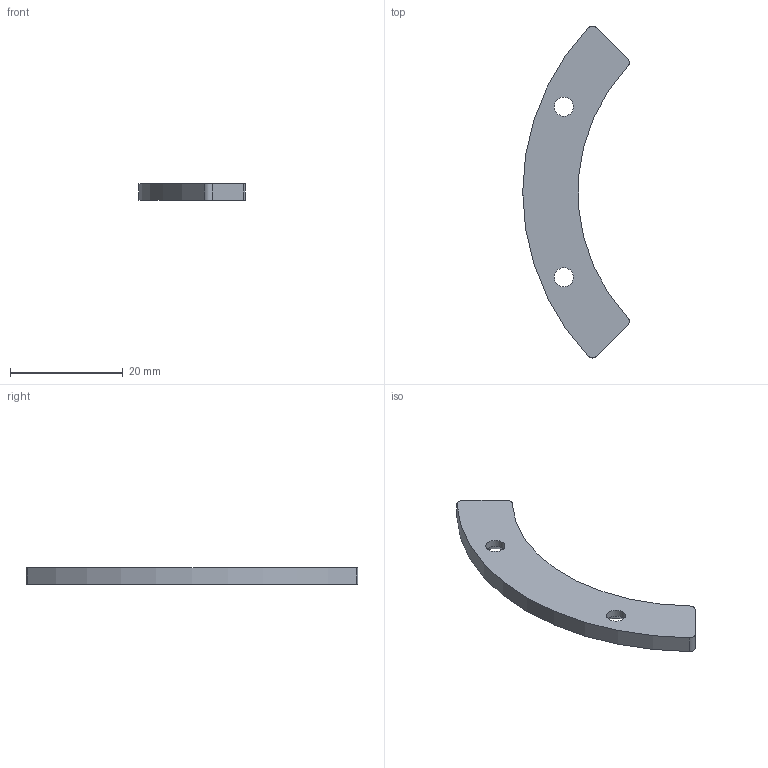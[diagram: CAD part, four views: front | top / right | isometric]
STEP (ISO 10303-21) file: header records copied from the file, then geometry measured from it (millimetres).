
FILE_DESCRIPTION(/* description */ ('Alibre Inc.'),/* implementation_level */ '2;1');
FILE_NAME(/* name */ 'export-25D22975-97D2-419B-AA0D-DFE1FB80EE9A',/* time_stamp */ '2026-01-22T13:47:37+00:00',/* author */ (''),/* organization */ (''),/* preprocessor_version */ 'ST-DEVELOPER v17',/* originating_system */ 'Alibre',/* authorisation */ '');
FILE_SCHEMA (('CONFIG_CONTROL_DESIGN'));
Length unit declared in the file: millimetre
Bounding box: 18.91 x 58.98 x 3 mm (x, y, z)
Volume: 1629 mm3; surface area: 1569.9 mm2
Topology: 1 solids, 1 shells, 14 faces, 36 edges, 24 vertices
Faces by surface type: cylinder 8, plane 4, cone 2
Full cylindrical faces by diameter (mm): 3.4 x2
Entity records: 489 total; most frequent: DIRECTION 72, CARTESIAN_POINT 66, ORIENTED_EDGE 60, AXIS2_PLACEMENT_3D 32, EDGE_CURVE 30, VERTEX_POINT 22, EDGE_LOOP 22, FACE_BOUND 22
